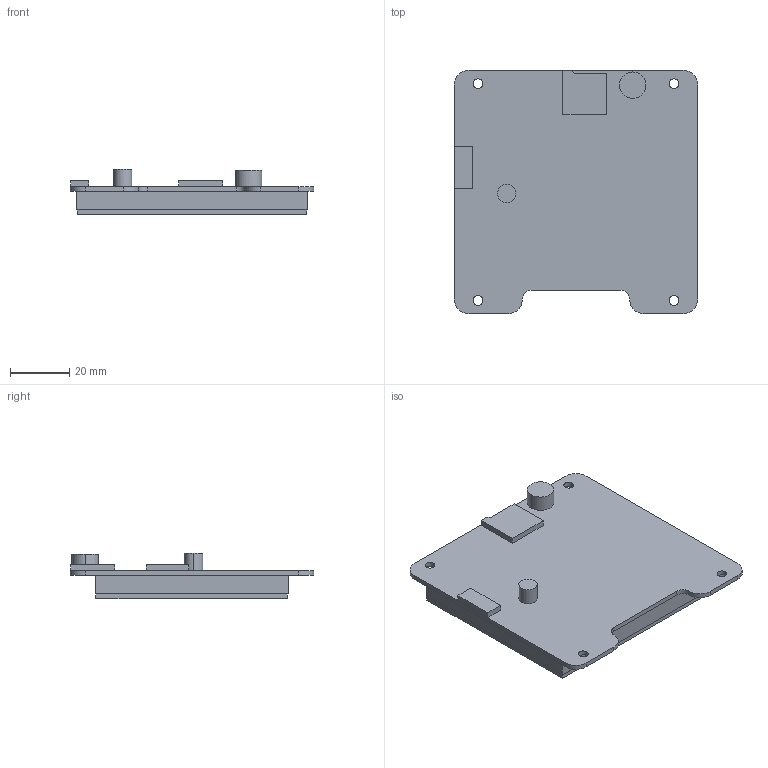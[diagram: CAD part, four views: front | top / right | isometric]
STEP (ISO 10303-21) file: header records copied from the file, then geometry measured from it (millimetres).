
FILE_DESCRIPTION((''),'2;1');
FILE_NAME('DMG64480T035-01WN-WTR','2021-10-21T',('Administrator'),(''),'PRO/ENGINEER BY PARAMETRIC TECHNOLOGY CORPORATION, 2008380','PRO/ENGINEER BY PARAMETRIC TECHNOLOGY CORPORATION, 2008380','');
FILE_SCHEMA(('CONFIG_CONTROL_DESIGN'));
Length unit declared in the file: millimetre
Products named in the file (1): DMG64480T035-01WN-WTR
Bounding box: 82 x 82 x 15.3 mm (x, y, z)
Volume: 49498 mm3; surface area: 23868.9 mm2
Topology: 1 solids, 2 shells, 58 faces, 9393 edges, 15355 vertices
Faces by surface type: plane 38, cylinder 20
Entity records: 51311 total; most frequent: DIRECTION 12798, CARTESIAN_POINT 9548, TRIMMED_CURVE 9249, VECTOR 6106, LINE 6106, AXIS2_PLACEMENT_3D 3346, CIRCLE 3287, ORIENTED_EDGE 288
